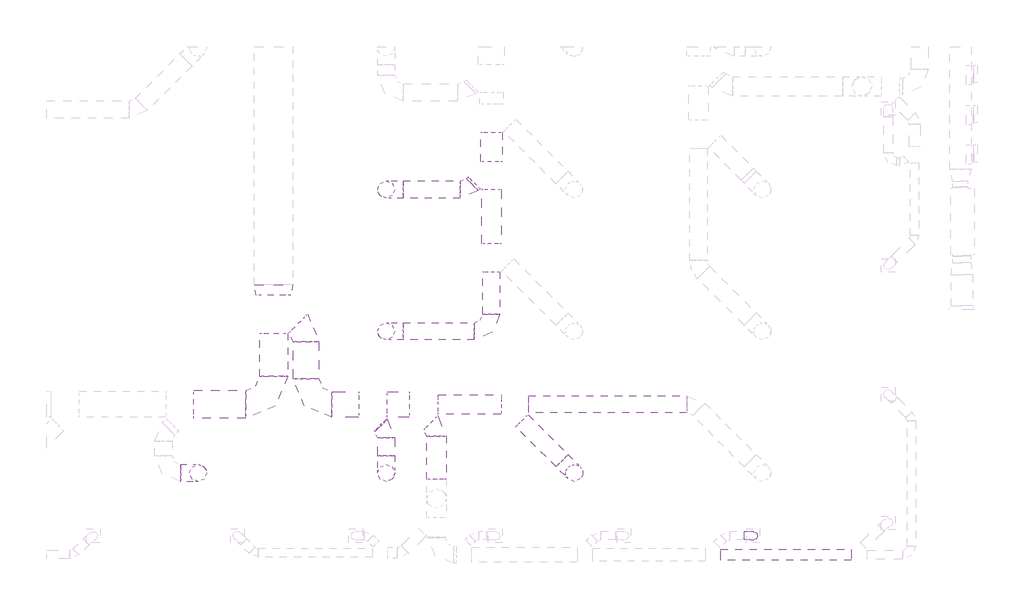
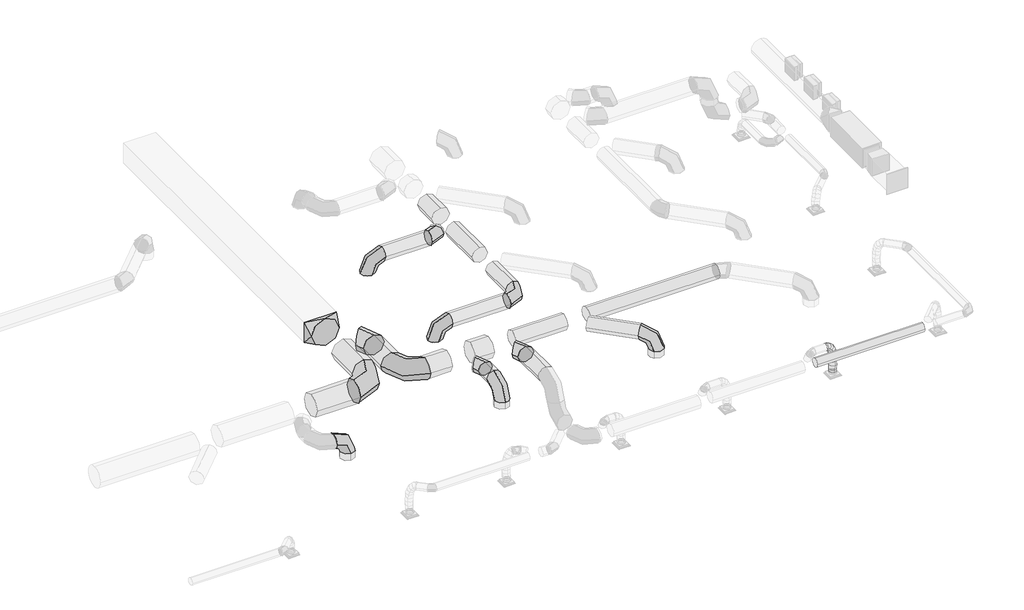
# One storey, part 6 of 33: 25 duct segments, 13 duct fittings.
"""IFC4 building model written with IfcOpenShell, lengths in millimetres."""

from ifc_helpers import new_model, si_unit, point, frame, frame_2d, origin, place, context, project, spatial, circle_curve, ellipse_curve, trimmed, segment, composite_curve, outline, extrude, transform, mapped, element, save
from ifc_brep_helpers import plane_surface, cylinder_surface, advanced_brep
from components import rectangular_to_round_transition_angle_45_degree_0f345050, round_elbow_1_d_a92ac68b, round_elbow_1_d_30de4f45, round_elbow_1_d_8aca8b6e, round_elbow_1_d_29f30982, round_elbow_1_d_755a5f0f, round_elbow_1_d_6b09a4cd

model = new_model("IFC4")

# Units and contexts
model_context = context("Model", 3, world=origin())
ifc_project = project(units=[si_unit("LENGTHUNIT", "METRE", prefix="MILLI")], contexts=[model_context])

# Site, building, storey
site = spatial("IfcSite", under=ifc_project)
building = spatial("IfcBuilding", under=site)
storey = spatial("IfcBuildingStorey", under=building, Name="T.O. SLAB - 1ST", Elevation=-25.4)

# Duct fittings
placement = place(None, origin())
rectangular_to_round_transition_angle_45_degree_shape = rectangular_to_round_transition_angle_45_degree_0f345050(model_context)
element("IfcDuctFitting", 1, ObjectType="Rectangular to Round Transition - Angle : 45 Degree", at=placement, inside=storey, context=model_context, shape_type="MappedRepresentation", body=[
    mapped(rectangular_to_round_transition_angle_45_degree_shape, transform((18409.4301182, 12453.8724624, 4826.0), x_axis=(0.0, -1.0, 0.0), y_axis=(1.0, 0.0, 0.0), z_axis=(0.0, 0.0, 1.0))),
])
round_elbow_1_d_shape = round_elbow_1_d_a92ac68b(model_context)
element("IfcDuctFitting", 2, ObjectType="Round Elbow : 1 D", at=placement, inside=storey, context=model_context, shape_type="MappedRepresentation", body=[
    mapped(round_elbow_1_d_shape, transform((18409.4301182, 9627.2657862, 4826.0), x_axis=(1.0, 0.0, 0.0), y_axis=(0.0, 1.0, 0.0), z_axis=(0.0, 0.0, 1.0))),
])
round_elbow_1_d_2_shape = round_elbow_1_d_30de4f45(model_context)
element("IfcDuctFitting", 3, ObjectType="Round Elbow : 1 D", at=placement, inside=storey, context=model_context, shape_type="MappedRepresentation", body=[
    mapped(round_elbow_1_d_2_shape, transform((21071.7804612, 9005.9434892, 4826.0), x_axis=(0.0, 1.0, 0.0), y_axis=(-1.0, 0.0, 0.0), z_axis=(0.0, 0.0, 1.0))),
])
element("IfcDuctFitting", 4, ObjectType="Round Elbow : 1 D", at=placement, inside=storey, context=model_context, shape_type="MappedRepresentation", body=[
    mapped(round_elbow_1_d_2_shape, transform((22990.1561416, 14709.1197891, 4635.5), x_axis=(1.0, 0.0, 0.0), y_axis=(0.0, 1.0, 0.0), z_axis=(0.0, 0.0, 1.0))),
])
round_elbow_1_d_3_shape = round_elbow_1_d_8aca8b6e(model_context)
element("IfcDuctFitting", 5, ObjectType="Round Elbow : 1 D", at=placement, inside=storey, context=model_context, shape_type="MappedRepresentation", body=[
    mapped(round_elbow_1_d_3_shape, transform((16621.7004612, 8003.2910045, 4826.0), x_axis=(0.0, 0.0, 1.0), y_axis=(-1.0, 0.0, 0.0), z_axis=(0.0, -1.0, 0.0))),
])
element("IfcDuctFitting", 6, ObjectType="Round Elbow : 1 D", at=placement, inside=storey, context=model_context, shape_type="MappedRepresentation", body=[
    mapped(round_elbow_1_d_3_shape, transform((21071.7804612, 8003.2910045, 4826.0), x_axis=(0.0, 0.0, 1.0), y_axis=(0.0, 1.0, 0.0), z_axis=(-1.0, 0.0, 0.0))),
])
element("IfcDuctFitting", 7, ObjectType="Round Elbow : 1 D", at=placement, inside=storey, context=model_context, shape_type="MappedRepresentation", body=[
    mapped(round_elbow_1_d_3_shape, transform((25521.7392057, 8003.9521435, 4826.0), x_axis=(0.0, 0.0, 1.0), y_axis=(-0.7071067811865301, 0.7071067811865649, 0.0), z_axis=(-0.7071067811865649, -0.7071067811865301, 0.0))),
])
element("IfcDuctFitting", 8, ObjectType="Round Elbow : 1 D", at=placement, inside=storey, context=model_context, shape_type="MappedRepresentation", body=[
    mapped(round_elbow_1_d_3_shape, transform((21071.7804612, 14709.1197891, 4635.5), x_axis=(0.0, 0.0, 1.0), y_axis=(1.0, 0.0, 0.0), z_axis=(0.0, 1.0, 0.0))),
])
element("IfcDuctFitting", 9, ObjectType="Round Elbow : 1 D", at=placement, inside=storey, context=model_context, shape_type="MappedRepresentation", body=[
    mapped(round_elbow_1_d_3_shape, transform((23561.0182719, 11356.0910045, 4635.5), x_axis=(1.0, 0.0, 0.0), y_axis=(0.0, 1.0, 0.0), z_axis=(0.0, 0.0, 1.0))),
])
element("IfcDuctFitting", 10, ObjectType="Round Elbow : 1 D", at=placement, inside=storey, context=model_context, shape_type="MappedRepresentation", body=[
    mapped(round_elbow_1_d_3_shape, transform((21071.7804612, 11356.0910045, 4635.5), x_axis=(0.0, 0.0, 1.0), y_axis=(1.0, 0.0, 0.0), z_axis=(0.0, 1.0, 0.0))),
])
round_elbow_1_d_4_shape = round_elbow_1_d_29f30982(model_context)
element("IfcDuctFitting", 11, ObjectType="Round Elbow : 1 D", at=placement, inside=storey, context=model_context, shape_type="MappedRepresentation", body=[
    mapped(round_elbow_1_d_4_shape, transform((19173.9445707, 9625.3291958, 4826.0), x_axis=(0.0, -1.0, 0.0), y_axis=(1.0, 0.0, 0.0), z_axis=(0.0, 0.0, 1.0))),
])
round_elbow_1_d_5_shape = round_elbow_1_d_755a5f0f(model_context)
element("IfcDuctFitting", 12, ObjectType="Round Elbow : 1 D", at=placement, inside=storey, context=model_context, shape_type="MappedRepresentation", body=[
    mapped(round_elbow_1_d_5_shape, transform((19173.9445707, 11364.3020432, 4826.0), x_axis=(0.0, 1.0, 0.0), y_axis=(-1.0, 0.0, 0.0), z_axis=(0.0, 0.0, 1.0))),
])
round_elbow_1_d_6_shape = round_elbow_1_d_6b09a4cd(model_context)
element("IfcDuctFitting", 13, ObjectType="Round Elbow : 1 D", at=placement, inside=storey, context=model_context, shape_type="MappedRepresentation", body=[
    mapped(round_elbow_1_d_6_shape, transform((22263.1, 9059.5877561, 4826.0), x_axis=(0.0, 1.0, 0.0), y_axis=(-1.0, 0.0, 0.0), z_axis=(0.0, 0.0, 1.0))),
])

# Duct segments
element("IfcDuctSegment", 14, ObjectType="Flex - Round", at=placement, inside=storey, context=model_context, shape_type="AdvancedBrep", body=[
    advanced_brep(
    [(29546.5216644, 6620.4480728, 3911.6), (29546.5216644, 6518.8480728, 3810.0), (29546.5216644, 6417.2480728, 3911.6), (29546.5216644, 6518.8480728, 4013.2), (29569.427366, 6620.4480728, 3911.6), (29553.2806618, 6518.8480728, 3810.0), (29569.3581563, 6417.2480728, 3911.6), (29585.5048605, 6518.8480728, 4013.2), (29749.9225627, 6619.3062058, 3117.8057787), (29851.3001089, 6517.5044406, 3115.7775468), (29749.5203354, 6416.1066232, 3117.8942213), (29648.1427892, 6517.9083883, 3119.9224532), (29625.5303367, 6620.4088697, 3893.3469271), (29573.8418357, 6518.8337053, 3803.3104326), (29625.3133821, 6417.2089729, 3893.3949959), (29677.0018831, 6518.7841373, 3983.4314904), (29682.4790961, 6620.3038337, 3842.8217712), (29600.2429957, 6518.7850111, 3779.887223), (29682.1429617, 6417.1041567, 3842.9755767), (29764.3790621, 6518.6229793, 3905.9101249), (29720.7804733, 6620.1518286, 3766.3796113), (29624.5253978, 6518.6886426, 3731.424233), (29720.3953713, 6416.952346, 3766.6311468), (29816.6504468, 6518.4155321, 3801.5865252), (29743.8495322, 6619.9716872, 3670.3638593), (29643.2795955, 6518.542195, 3653.3673691), (29743.4530457, 6416.7722935, 3670.6627783), (29844.0229824, 6518.2017857, 3687.6592685), (29755.0986055, 6619.7821857, 3561.0905739), (29653.4270925, 6518.3712506, 3554.7947746), (29754.701151, 6416.5828083, 3561.398896), (29856.372664, 6517.9937434, 3567.6946952), (29757.9309239, 6619.6021041, 3444.8776762), (29656.109489, 6518.2007012, 3444.7333238), (29757.5339552, 6416.4026958, 3445.1660624), (29859.3553901, 6517.8040988, 3445.3104147), (29755.7466728, 6619.4502286, 3328.0477099), (29653.9803932, 6518.0526608, 3330.8534731), (29755.3487716, 6416.2507555, 3328.2862174), (29857.1150512, 6517.6483234, 3325.4804542), (29751.9449923, 6619.3453458, 3216.9287818), (29650.1801142, 6517.9478166, 3219.7755093), (29751.5439588, 6416.1457862, 3217.0757381), (29853.3088369, 6517.5433154, 3214.2290106)],
    [
        (0, 1, circle_curve(frame((29546.5216644, 6518.8480728, 3911.6), z_axis=(-1.0, 0.0, 0.0), x_axis=(0.0, 1.0, 0.0)), 101.6)),
        (1, 2, circle_curve(frame((29546.5216644, 6518.8480728, 3911.6), z_axis=(-1.0, 0.0, 0.0), x_axis=(0.0, 1.0, 0.0)), 101.6)),
        (2, 3, circle_curve(frame((29546.5216644, 6518.8480728, 3911.6), z_axis=(-1.0, 0.0, 0.0), x_axis=(0.0, 1.0, 0.0)), 101.6)),
        (3, 0, circle_curve(frame((29546.5216644, 6518.8480728, 3911.6), z_axis=(-1.0, 0.0, 0.0), x_axis=(0.0, 1.0, 0.0)), 101.6)),
        (0, 4),
        (4, 5, ellipse_curve(frame((29569.3927612, 6518.8480728, 3911.6), z_axis=(-0.9876578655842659, 0.0003363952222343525, 0.15662639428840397), x_axis=(-0.15662675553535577, -0.0021212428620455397, -0.9876555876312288)), 102.8696308, 101.6)),
        (5, 1),
        (5, 6, ellipse_curve(frame((29569.3927612, 6518.8480728, 3911.6), z_axis=(-0.9876578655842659, 0.0003363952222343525, 0.15662639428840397), x_axis=(-0.15662675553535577, -0.0021212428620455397, -0.9876555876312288)), 102.8696308, 101.6)),
        (6, 2),
        (6, 7, ellipse_curve(frame((29569.3927612, 6518.8480728, 3911.6), z_axis=(-0.9876578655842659, 0.0003363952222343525, 0.15662639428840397), x_axis=(-0.15662675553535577, -0.0021212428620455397, -0.9876555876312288)), 102.8696308, 101.6)),
        (7, 3),
        (7, 4, ellipse_curve(frame((29569.3927612, 6518.8480728, 3911.6), z_axis=(-0.9876578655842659, 0.0003363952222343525, 0.15662639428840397), x_axis=(-0.15662675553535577, -0.0021212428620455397, -0.9876555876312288)), 102.8696308, 101.6)),
        (8, 9, circle_curve(frame((29749.721449, 6517.7064145, 3117.85), z_axis=(-0.02039898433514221, -0.0003947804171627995, -0.9997918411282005), x_axis=(0.0019794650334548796, 0.999997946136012, -0.00043524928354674)), 101.6)),
        (9, 10, circle_curve(frame((29749.721449, 6517.7064145, 3117.85), z_axis=(-0.02039898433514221, -0.0003947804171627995, -0.9997918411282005), x_axis=(0.0019794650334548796, 0.999997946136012, -0.00043524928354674)), 101.6)),
        (10, 11, circle_curve(frame((29749.721449, 6517.7064145, 3117.85), z_axis=(-0.02039898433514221, -0.0003947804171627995, -0.9997918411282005), x_axis=(0.0019794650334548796, 0.999997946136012, -0.00043524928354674)), 101.6)),
        (11, 8, circle_curve(frame((29749.721449, 6517.7064145, 3117.85), z_axis=(-0.02039898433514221, -0.0003947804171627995, -0.9997918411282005), x_axis=(0.0019794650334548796, 0.999997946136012, -0.00043524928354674)), 101.6)),
        (4, 12),
        (12, 13, ellipse_curve(frame((29625.4218594, 6518.8089213, 3893.3709615), z_axis=(-0.867757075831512, 0.0010440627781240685, 0.4969874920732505), x_axis=(-0.4969885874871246, -0.0017517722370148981, -0.8677553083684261)), 103.7853563, 101.6)),
        (13, 5),
        (13, 14, ellipse_curve(frame((29625.4218594, 6518.8089213, 3893.3709615), z_axis=(-0.867757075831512, 0.0010440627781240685, 0.4969874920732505), x_axis=(-0.4969885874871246, -0.0017517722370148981, -0.8677553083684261)), 103.7853563, 101.6)),
        (14, 6),
        (14, 15, ellipse_curve(frame((29625.4218594, 6518.8089213, 3893.3709615), z_axis=(-0.867757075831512, 0.0010440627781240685, 0.4969874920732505), x_axis=(-0.4969885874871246, -0.0017517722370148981, -0.8677553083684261)), 103.7853563, 101.6)),
        (15, 7),
        (15, 12, ellipse_curve(frame((29625.4218594, 6518.8089213, 3893.3709615), z_axis=(-0.867757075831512, 0.0010440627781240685, 0.4969874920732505), x_axis=(-0.4969885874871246, -0.0017517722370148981, -0.8677553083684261)), 103.7853563, 101.6)),
        (12, 16),
        (16, 17, ellipse_curve(frame((29682.3110289, 6518.7039952, 3842.8986739), z_axis=(-0.6089934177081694, 0.0016077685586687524, 0.7931736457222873), x_axis=(-0.7931752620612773, -0.0010524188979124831, -0.6089925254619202)), 103.4679319, 101.6)),
        (17, 13),
        (17, 18, ellipse_curve(frame((29682.3110289, 6518.7039952, 3842.8986739), z_axis=(-0.6089934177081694, 0.0016077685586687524, 0.7931736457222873), x_axis=(-0.7931752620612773, -0.0010524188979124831, -0.6089925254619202)), 103.4679319, 101.6)),
        (18, 14),
        (18, 19, ellipse_curve(frame((29682.3110289, 6518.7039952, 3842.8986739), z_axis=(-0.6089934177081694, 0.0016077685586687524, 0.7931736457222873), x_axis=(-0.7931752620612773, -0.0010524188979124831, -0.6089925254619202)), 103.4679319, 101.6)),
        (19, 15),
        (19, 16, ellipse_curve(frame((29682.3110289, 6518.7039952, 3842.8986739), z_axis=(-0.6089934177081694, 0.0016077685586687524, 0.7931736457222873), x_axis=(-0.7931752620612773, -0.0010524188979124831, -0.6089925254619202)), 103.4679319, 101.6)),
        (16, 20),
        (20, 21, ellipse_curve(frame((29720.5879223, 6518.5520873, 3766.5053791), z_axis=(-0.34302946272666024, 0.0018128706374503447, 0.9393228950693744), x_axis=(-0.9393245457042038, -0.0002034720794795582, -0.34302967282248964)), 102.2678561, 101.6)),
        (21, 17),
        (21, 22, ellipse_curve(frame((29720.5879223, 6518.5520873, 3766.5053791), z_axis=(-0.34302946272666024, 0.0018128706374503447, 0.9393228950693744), x_axis=(-0.9393245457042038, -0.0002034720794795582, -0.34302967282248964)), 102.2678561, 101.6)),
        (22, 18),
        (22, 23, ellipse_curve(frame((29720.5879223, 6518.5520873, 3766.5053791), z_axis=(-0.34302946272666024, 0.0018128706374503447, 0.9393228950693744), x_axis=(-0.9393245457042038, -0.0002034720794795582, -0.34302967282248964)), 102.2678561, 101.6)),
        (23, 19),
        (23, 20, ellipse_curve(frame((29720.5879223, 6518.5520873, 3766.5053791), z_axis=(-0.34302946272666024, 0.0018128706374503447, 0.9393228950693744), x_axis=(-0.9393245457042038, -0.0002034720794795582, -0.34302967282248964)), 102.2678561, 101.6)),
        (20, 24),
        (24, 25, ellipse_curve(frame((29743.651289, 6518.3719903, 3670.5133188), z_axis=(-0.16838219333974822, 0.0017786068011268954, 0.9857201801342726), x_axis=(-0.985721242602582, 0.0007450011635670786, -0.16838371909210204)), 101.8257799, 101.6)),
        (25, 21),
        (25, 26, ellipse_curve(frame((29743.651289, 6518.3719903, 3670.5133188), z_axis=(-0.16838219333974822, 0.0017786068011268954, 0.9857201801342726), x_axis=(-0.985721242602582, 0.0007450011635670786, -0.16838371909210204)), 101.8257799, 101.6)),
        (26, 22),
        (26, 27, ellipse_curve(frame((29743.651289, 6518.3719903, 3670.5133188), z_axis=(-0.16838219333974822, 0.0017786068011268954, 0.9857201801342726), x_axis=(-0.985721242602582, 0.0007450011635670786, -0.16838371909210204)), 101.8257799, 101.6)),
        (27, 23),
        (27, 24, ellipse_curve(frame((29743.651289, 6518.3719903, 3670.5133188), z_axis=(-0.16838219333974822, 0.0017786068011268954, 0.9857201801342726), x_axis=(-0.985721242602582, 0.0007450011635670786, -0.16838371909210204)), 101.8257799, 101.6)),
        (24, 28),
        (28, 29, ellipse_curve(frame((29754.8998782, 6518.182497, 3561.2447349), z_axis=(-0.0634323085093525, 0.0016383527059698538, 0.9979847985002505), x_axis=(-0.9979833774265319, 0.002250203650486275, -0.06343591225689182)), 101.6777452, 101.6)),
        (29, 25),
        (29, 30, ellipse_curve(frame((29754.8998782, 6518.182497, 3561.2447349), z_axis=(-0.0634323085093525, 0.0016383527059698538, 0.9979847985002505), x_axis=(-0.9979833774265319, 0.002250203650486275, -0.06343591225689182)), 101.6777452, 101.6)),
        (30, 26),
        (30, 31, ellipse_curve(frame((29754.8998782, 6518.182497, 3561.2447349), z_axis=(-0.0634323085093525, 0.0016383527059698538, 0.9979847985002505), x_axis=(-0.9979833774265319, 0.002250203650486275, -0.06343591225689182)), 101.6777452, 101.6)),
        (31, 27),
        (31, 28, ellipse_curve(frame((29754.8998782, 6518.182497, 3561.2447349), z_axis=(-0.0634323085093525, 0.0016383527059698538, 0.9979847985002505), x_axis=(-0.9979833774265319, 0.002250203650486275, -0.06343591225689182)), 101.6777452, 101.6)),
        (28, 32),
        (32, 33, ellipse_curve(frame((29757.7324395, 6518.0024, 3445.0218693), z_axis=(-0.0028365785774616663, 0.0014247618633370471, 0.9999949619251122), x_axis=(-0.9999791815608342, 0.005791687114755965, -0.002844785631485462)), 101.623554, 101.6)),
        (33, 29),
        (33, 34, ellipse_curve(frame((29757.7324395, 6518.0024, 3445.0218693), z_axis=(-0.0028365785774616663, 0.0014247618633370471, 0.9999949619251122), x_axis=(-0.9999791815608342, 0.005791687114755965, -0.002844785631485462)), 101.623554, 101.6)),
        (34, 30),
        (34, 35, ellipse_curve(frame((29757.7324395, 6518.0024, 3445.0218693), z_axis=(-0.0028365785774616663, 0.0014247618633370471, 0.9999949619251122), x_axis=(-0.9999791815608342, 0.005791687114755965, -0.002844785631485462)), 101.623554, 101.6)),
        (35, 31),
        (35, 32, ellipse_curve(frame((29757.7324395, 6518.0024, 3445.0218693), z_axis=(-0.0028365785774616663, 0.0014247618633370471, 0.9999949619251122), x_axis=(-0.9999791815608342, 0.005791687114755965, -0.002844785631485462)), 101.623554, 101.6)),
        (32, 36),
        (36, 37, ellipse_curve(frame((29755.5477222, 6517.8504921, 3328.1669637), z_axis=(0.026443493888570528, 0.0011215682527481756, 0.9996496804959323), x_axis=(-0.9993869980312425, 0.02298042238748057, 0.0264107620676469)), 101.6030551, 101.6)),
        (37, 33),
        (37, 38, ellipse_curve(frame((29755.5477222, 6517.8504921, 3328.1669637), z_axis=(0.026443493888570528, 0.0011215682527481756, 0.9996496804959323), x_axis=(-0.9993869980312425, 0.02298042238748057, 0.0264107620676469)), 101.6030551, 101.6)),
        (38, 34),
        (38, 39, ellipse_curve(frame((29755.5477222, 6517.8504921, 3328.1669637), z_axis=(0.026443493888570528, 0.0011215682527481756, 0.9996496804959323), x_axis=(-0.9993869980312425, 0.02298042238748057, 0.0264107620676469)), 101.6030551, 101.6)),
        (39, 35),
        (39, 36, ellipse_curve(frame((29755.5477222, 6517.8504921, 3328.1669637), z_axis=(0.026443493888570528, 0.0011215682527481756, 0.9996496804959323), x_axis=(-0.9993869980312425, 0.02298042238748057, 0.0264107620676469)), 101.6030551, 101.6)),
        (36, 40),
        (40, 41, ellipse_curve(frame((29751.7444756, 6517.745566, 3217.00226), z_axis=(0.027296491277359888, 0.0006690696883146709, 0.9996271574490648), x_axis=(0.9988377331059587, 0.03972165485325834, -0.027301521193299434)), 101.6024221, 101.6)),
        (41, 37),
        (41, 42, ellipse_curve(frame((29751.7444756, 6517.745566, 3217.00226), z_axis=(0.027296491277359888, 0.0006690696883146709, 0.9996271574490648), x_axis=(0.9988377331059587, 0.03972165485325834, -0.027301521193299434)), 101.6024221, 101.6)),
        (42, 38),
        (42, 43, ellipse_curve(frame((29751.7444756, 6517.745566, 3217.00226), z_axis=(0.027296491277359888, 0.0006690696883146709, 0.9996271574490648), x_axis=(0.9988377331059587, 0.03972165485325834, -0.027301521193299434)), 101.6024221, 101.6)),
        (43, 39),
        (43, 40, ellipse_curve(frame((29751.7444756, 6517.745566, 3217.00226), z_axis=(0.027296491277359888, 0.0006690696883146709, 0.9996271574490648), x_axis=(0.9988377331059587, 0.03972165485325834, -0.027301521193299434)), 101.6024221, 101.6)),
        (40, 8),
        (11, 41),
        (10, 42),
        (9, 43),
    ],
    [
        plane_surface(frame((29546.5216644, 6518.8480728, 3810.0), z_axis=(-1.0, 0.0, 0.0), x_axis=(0.0, 1.0, 0.0))),
        cylinder_surface(frame((29546.5216644, 6518.8480728, 3911.6), z_axis=(-1.0, 0.0, 0.0), x_axis=(0.0, 1.0, 0.0)), 101.6),
        plane_surface(frame((29749.721449, 6619.3064066, 3117.809882), z_axis=(-0.020398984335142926, -0.0003947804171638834, -0.9997918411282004), x_axis=(0.9997919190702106, -8.054795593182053e-06, -0.020398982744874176))),
        cylinder_surface(frame((29569.3927612, 6518.8480728, 3911.6), z_axis=(-0.9509361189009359, 0.0006644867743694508, 0.3093865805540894), x_axis=(0.0006644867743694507, 0.9999997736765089, -0.00010537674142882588)), 101.6),
        cylinder_surface(frame((29625.4218594, 6518.8089213, 3893.3709615), z_axis=(-0.7480341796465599, 0.0013796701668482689, 0.663658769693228), x_axis=(0.0013848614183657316, 0.9999989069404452, -0.000517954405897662)), 101.6),
        cylinder_surface(frame((29682.3110289, 6518.7039952, 3842.8986739), z_axis=(-0.44796404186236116, 0.001777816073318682, 0.89404980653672), x_axis=(0.001815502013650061, 0.9999977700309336, -0.0010788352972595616)), 101.6),
        cylinder_surface(frame((29720.5879223, 6518.5520873, 3766.5053791), z_axis=(-0.23361460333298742, 0.0018242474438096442, 0.9723275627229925), x_axis=(0.001936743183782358, 0.999997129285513, -0.0014108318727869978)), 101.6),
        cylinder_surface(frame((29743.651289, 6518.3719903, 3670.5133188), z_axis=(-0.10240307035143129, 0.001725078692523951, 0.9947414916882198), x_axis=(0.001957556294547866, 0.9999969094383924, -0.0015326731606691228)), 101.6),
        cylinder_surface(frame((29754.8998782, 6518.182497, 3561.2447349), z_axis=(-0.024364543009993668, 0.0015491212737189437, 0.9997019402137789), x_axis=(0.0019556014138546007, 0.9999969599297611, -0.0015019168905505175)), 101.6),
        cylinder_surface(frame((29757.7324395, 6518.0024, 3445.0218693), z_axis=(0.018692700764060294, 0.0012997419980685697, 0.9998244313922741), x_axis=(0.0019551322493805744, 0.9999971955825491, -0.0013365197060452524)), 101.6),
        cylinder_surface(frame((29755.5477222, 6517.8504921, 3328.1669637), z_axis=(0.034192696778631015, 0.0009433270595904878, 0.999414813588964), x_axis=(0.001963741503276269, 0.9999975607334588, -0.0010110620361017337)), 101.6),
        cylinder_surface(frame((29751.7444756, 6517.745566, 3217.00226), z_axis=(0.02039898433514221, 0.0003947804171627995, 0.9997918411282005), x_axis=(0.0019794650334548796, 0.999997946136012, -0.00043524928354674)), 101.6),
    ],
    [
        (0, [[1, 2, 3, 4]]),
        (1, [[-1, 5, 6, 7]]),
        (1, [[-2, -7, 8, 9]]),
        (1, [[-3, -9, 10, 11]]),
        (1, [[-4, -11, 12, -5]]),
        (2, [[13, 14, 15, 16]]),
        (3, [[-6, 17, 18, 19]]),
        (3, [[-8, -19, 20, 21]]),
        (3, [[-10, -21, 22, 23]]),
        (3, [[-12, -23, 24, -17]]),
        (4, [[-18, 25, 26, 27]]),
        (4, [[-20, -27, 28, 29]]),
        (4, [[-22, -29, 30, 31]]),
        (4, [[-24, -31, 32, -25]]),
        (5, [[-26, 33, 34, 35]]),
        (5, [[-28, -35, 36, 37]]),
        (5, [[-30, -37, 38, 39]]),
        (5, [[-32, -39, 40, -33]]),
        (6, [[-34, 41, 42, 43]]),
        (6, [[-36, -43, 44, 45]]),
        (6, [[-38, -45, 46, 47]]),
        (6, [[-40, -47, 48, -41]]),
        (7, [[-42, 49, 50, 51]]),
        (7, [[-44, -51, 52, 53]]),
        (7, [[-46, -53, 54, 55]]),
        (7, [[-48, -55, 56, -49]]),
        (8, [[-50, 57, 58, 59]]),
        (8, [[-52, -59, 60, 61]]),
        (8, [[-54, -61, 62, 63]]),
        (8, [[-56, -63, 64, -57]]),
        (9, [[-58, 65, 66, 67]]),
        (9, [[-60, -67, 68, 69]]),
        (9, [[-62, -69, 70, 71]]),
        (9, [[-64, -71, 72, -65]]),
        (10, [[-66, 73, 74, 75]]),
        (10, [[-68, -75, 76, 77]]),
        (10, [[-70, -77, 78, 79]]),
        (10, [[-72, -79, 80, -73]]),
        (11, [[-74, 81, -16, 82]]),
        (11, [[-76, -82, -15, 83]]),
        (11, [[-78, -83, -14, 84]]),
        (11, [[-80, -84, -13, -81]]),
    ],
),
])
element("IfcDuctSegment", 15, ObjectType="Taps", at=placement, inside=storey, context=model_context, shape_type="SweptSolid", body=[
    extrude(outline(composite_curve([segment(trimmed(circle_curve(frame_2d((4826.0, 18409.4301182)), 330.2), [point((4826.0, 18079.2301182))], [point((4495.8, 18409.4301182))], False, "CARTESIAN"), True, "CONTINUOUS"), segment(trimmed(circle_curve(frame_2d((4826.0, 18409.4301182)), 330.2), [point((4495.8, 18409.4301182))], [point((4826.0, 18739.6301182))], False, "CARTESIAN"), True, "CONTINUOUS"), segment(trimmed(circle_curve(frame_2d((4826.0, 18409.4301182)), 330.2), [point((4826.0, 18739.6301182))], [point((5156.2, 18409.4301182))], False, "CARTESIAN"), True, "CONTINUOUS"), segment(trimmed(circle_curve(frame_2d((4826.0, 18409.4301182)), 330.2), [point((5156.2, 18409.4301182))], [point((4826.0, 18079.2301182))], False, "CARTESIAN"), True, "CONTINUOUS")], self_intersect=False)), frame((0.0, 10287.6657862, 0.0), z_axis=(0.0, 1.0, 0.0), x_axis=(0.0, 0.0, 1.0)), (0.0, 0.0, 1.0), 1024.7788408),
])
element("IfcDuctSegment", 16, ObjectType="Taps", at=placement, inside=storey, context=model_context, shape_type="SweptSolid", body=[
    extrude(outline(composite_curve([segment(trimmed(circle_curve(frame_2d((4826.0, 19173.9445707)), 304.8), [point((4826.0, 18869.1445707))], [point((4521.2, 19173.9445707))], False, "CARTESIAN"), True, "CONTINUOUS"), segment(trimmed(circle_curve(frame_2d((4826.0, 19173.9445707)), 304.8), [point((4521.2, 19173.9445707))], [point((4826.0, 19478.7445707))], False, "CARTESIAN"), True, "CONTINUOUS"), segment(trimmed(circle_curve(frame_2d((4826.0, 19173.9445707)), 304.8), [point((4826.0, 19478.7445707))], [point((5130.8, 19173.9445707))], False, "CARTESIAN"), True, "CONTINUOUS"), segment(trimmed(circle_curve(frame_2d((4826.0, 19173.9445707)), 304.8), [point((5130.8, 19173.9445707))], [point((4826.0, 18869.1445707))], False, "CARTESIAN"), True, "CONTINUOUS")], self_intersect=False)), frame((0.0, 10234.9291958, 0.0), z_axis=(0.0, 1.0, 0.0), x_axis=(0.0, 0.0, 1.0)), (0.0, 0.0, 1.0), 876.8682598),
])
element("IfcDuctSegment", 17, ObjectType="Taps", at=placement, inside=storey, context=model_context, shape_type="SweptSolid", body=[
    extrude(outline(composite_curve([segment(trimmed(circle_curve(frame_2d((9625.3291958, 4826.0)), 203.2), [point((9422.1291958, 4826.0))], [point((9625.3291958, 5029.2))], False, "CARTESIAN"), True, "CONTINUOUS"), segment(trimmed(circle_curve(frame_2d((9625.3291958, 4826.0)), 203.2), [point((9625.3291958, 5029.2))], [point((9828.5291958, 4826.0))], False, "CARTESIAN"), True, "CONTINUOUS"), segment(trimmed(circle_curve(frame_2d((9625.3291958, 4826.0)), 203.2), [point((9828.5291958, 4826.0))], [point((9625.3291958, 4622.8))], False, "CARTESIAN"), True, "CONTINUOUS"), segment(trimmed(circle_curve(frame_2d((9625.3291958, 4826.0)), 203.2), [point((9625.3291958, 4622.8))], [point((9422.1291958, 4826.0))], False, "CARTESIAN"), True, "CONTINUOUS")], self_intersect=False)), frame((24443.7006733, 0.0, 0.0), z_axis=(1.0, 0.0, 0.0), x_axis=(0.0, 1.0, 0.0)), (0.0, 0.0, 1.0), 3738.6475993),
])
element("IfcDuctSegment", 18, ObjectType="Taps", at=placement, inside=storey, context=model_context, shape_type="SweptSolid", body=[
    extrude(outline(composite_curve([segment(trimmed(circle_curve(frame_2d((9627.2657862, 4826.0)), 330.2), [point((9957.4657862, 4826.0))], [point((9627.2657862, 4495.8))], False, "CARTESIAN"), True, "CONTINUOUS"), segment(trimmed(circle_curve(frame_2d((9627.2657862, 4826.0)), 330.2), [point((9627.2657862, 4495.8))], [point((9297.0657862, 4826.0))], False, "CARTESIAN"), True, "CONTINUOUS"), segment(trimmed(circle_curve(frame_2d((9627.2657862, 4826.0)), 330.2), [point((9297.0657862, 4826.0))], [point((9627.2657862, 5156.2))], False, "CARTESIAN"), True, "CONTINUOUS"), segment(trimmed(circle_curve(frame_2d((9627.2657862, 4826.0)), 330.2), [point((9627.2657862, 5156.2))], [point((9957.4657862, 4826.0))], False, "CARTESIAN"), True, "CONTINUOUS")], self_intersect=False)), frame((16515.2737211, 0.0, 0.0), z_axis=(1.0, 0.0, 0.0), x_axis=(0.0, 1.0, 0.0)), (0.0, 0.0, 1.0), 1233.756397),
])
element("IfcDuctSegment", 19, ObjectType="Taps", at=placement, inside=storey, context=model_context, shape_type="SweptSolid", body=[
    extrude(outline(composite_curve([segment(trimmed(circle_curve(frame_2d((8003.2910045, 4826.0)), 203.2), [point((7800.0910045, 4826.0))], [point((8003.2910045, 5029.2))], False, "CARTESIAN"), True, "CONTINUOUS"), segment(trimmed(circle_curve(frame_2d((8003.2910045, 4826.0)), 203.2), [point((8003.2910045, 5029.2))], [point((8206.4910045, 4826.0))], False, "CARTESIAN"), True, "CONTINUOUS"), segment(trimmed(circle_curve(frame_2d((8003.2910045, 4826.0)), 203.2), [point((8206.4910045, 4826.0))], [point((8003.2910045, 4622.8))], False, "CARTESIAN"), True, "CONTINUOUS"), segment(trimmed(circle_curve(frame_2d((8003.2910045, 4826.0)), 203.2), [point((8003.2910045, 4622.8))], [point((7800.0910045, 4826.0))], False, "CARTESIAN"), True, "CONTINUOUS")], self_intersect=False)), frame((16210.0526059, 0.0, 0.0), z_axis=(1.0, 0.0, 0.0), x_axis=(0.0, 1.0, 0.0)), (0.0, 0.0, 1.0), 5.2478554),
])
element("IfcDuctSegment", 20, ObjectType="Taps", at=placement, inside=storey, context=model_context, shape_type="SweptSolid", body=[
    extrude(outline(composite_curve([segment(trimmed(circle_curve(frame_2d((16621.7004612, 8003.2910045)), 203.2), [point((16621.7004612, 8206.4910045))], [point((16824.9004612, 8003.2910045))], False, "CARTESIAN"), True, "CONTINUOUS"), segment(trimmed(circle_curve(frame_2d((16621.7004612, 8003.2910045)), 203.2), [point((16824.9004612, 8003.2910045))], [point((16621.7004612, 7800.0910045))], False, "CARTESIAN"), True, "CONTINUOUS"), segment(trimmed(circle_curve(frame_2d((16621.7004612, 8003.2910045)), 203.2), [point((16621.7004612, 7800.0910045))], [point((16418.5004612, 8003.2910045))], False, "CARTESIAN"), True, "CONTINUOUS"), segment(trimmed(circle_curve(frame_2d((16621.7004612, 8003.2910045)), 203.2), [point((16418.5004612, 8003.2910045))], [point((16621.7004612, 8206.4910045))], False, "CARTESIAN"), True, "CONTINUOUS")], self_intersect=False)), frame((0.0, 0.0, 4216.4), z_axis=(0.0, 0.0, 1.0), x_axis=(1.0, 0.0, 0.0)), (0.0, 0.0, 1.0), 203.2),
])
element("IfcDuctSegment", 21, ObjectType="Taps", at=placement, inside=storey, context=model_context, shape_type="SweptSolid", body=[
    extrude(outline(composite_curve([segment(trimmed(circle_curve(frame_2d((9625.3291958, 4826.0)), 304.8), [point((9320.5291958, 4826.0))], [point((9625.3291958, 5130.8))], False, "CARTESIAN"), True, "CONTINUOUS"), segment(trimmed(circle_curve(frame_2d((9625.3291958, 4826.0)), 304.8), [point((9625.3291958, 5130.8))], [point((9930.1291958, 4826.0))], False, "CARTESIAN"), True, "CONTINUOUS"), segment(trimmed(circle_curve(frame_2d((9625.3291958, 4826.0)), 304.8), [point((9930.1291958, 4826.0))], [point((9625.3291958, 4521.2))], False, "CARTESIAN"), True, "CONTINUOUS"), segment(trimmed(circle_curve(frame_2d((9625.3291958, 4826.0)), 304.8), [point((9625.3291958, 4521.2))], [point((9320.5291958, 4826.0))], False, "CARTESIAN"), True, "CONTINUOUS")], self_intersect=False)), frame((19783.5445707, 0.0, 0.0), z_axis=(1.0, 0.0, 0.0), x_axis=(0.0, 1.0, 0.0)), (0.0, 0.0, 1.0), 635.481988),
])
element("IfcDuctSegment", 22, ObjectType="Taps", at=placement, inside=storey, context=model_context, shape_type="SweptSolid", body=[
    extrude(outline(composite_curve([segment(trimmed(circle_curve(frame_2d((0.0, -203.2)), 203.2), [point((-203.1999999, -203.2))], [point((0.0, 0.0))], False, "CARTESIAN"), True, "CONTINUOUS"), segment(trimmed(circle_curve(frame_2d((0.0, -203.2)), 203.2), [point((0.0, 0.0))], [point((203.1999999, -203.2))], False, "CARTESIAN"), True, "CONTINUOUS"), segment(trimmed(circle_curve(frame_2d((0.0, -203.2)), 203.2), [point((203.1999999, -203.2))], [point((0.0, -406.4))], False, "CARTESIAN"), True, "CONTINUOUS"), segment(trimmed(circle_curve(frame_2d((0.0, -203.2)), 203.2), [point((0.0, -406.4))], [point((-203.1999999, -203.2))], False, "CARTESIAN"), True, "CONTINUOUS")], self_intersect=False)), frame((20952.7486571, 9124.9752933, 4622.8), z_axis=(-0.707106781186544, 0.7071067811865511, 0.0), x_axis=(0.7071067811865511, 0.707106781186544, 0.0)), (0.0, 0.0, 1.0), 22.5549811),
])
element("IfcDuctSegment", 23, ObjectType="Taps", at=placement, inside=storey, context=model_context, shape_type="SweptSolid", body=[
    extrude(outline(composite_curve([segment(trimmed(circle_curve(frame_2d((4826.0, 21071.7804612)), 203.2), [point((4826.0, 20868.5804612))], [point((4622.8, 21071.7804612))], False, "CARTESIAN"), True, "CONTINUOUS"), segment(trimmed(circle_curve(frame_2d((4826.0, 21071.7804612)), 203.2), [point((4622.8, 21071.7804612))], [point((4826.0, 21274.9804612))], False, "CARTESIAN"), True, "CONTINUOUS"), segment(trimmed(circle_curve(frame_2d((4826.0, 21071.7804612)), 203.2), [point((4826.0, 21274.9804612))], [point((5029.2, 21071.7804612))], False, "CARTESIAN"), True, "CONTINUOUS"), segment(trimmed(circle_curve(frame_2d((4826.0, 21071.7804612)), 203.2), [point((5029.2, 21071.7804612))], [point((4826.0, 20868.5804612))], False, "CARTESIAN"), True, "CONTINUOUS")], self_intersect=False)), frame((0.0, 8409.6910045, 0.0), z_axis=(0.0, 1.0, 0.0), x_axis=(0.0, 0.0, 1.0)), (0.0, 0.0, 1.0), 427.9160929),
])
element("IfcDuctSegment", 24, ObjectType="Taps", at=placement, inside=storey, context=model_context, shape_type="SweptSolid", body=[
    extrude(outline(composite_curve([segment(trimmed(circle_curve(frame_2d((21071.7804612, 8003.2910045)), 203.2), [point((21274.9804612, 8003.2910045))], [point((21071.7804612, 7800.0910045))], False, "CARTESIAN"), True, "CONTINUOUS"), segment(trimmed(circle_curve(frame_2d((21071.7804612, 8003.2910045)), 203.2), [point((21071.7804612, 7800.0910045))], [point((20868.5804612, 8003.2910045))], False, "CARTESIAN"), True, "CONTINUOUS"), segment(trimmed(circle_curve(frame_2d((21071.7804612, 8003.2910045)), 203.2), [point((20868.5804612, 8003.2910045))], [point((21071.7804612, 8206.4910045))], False, "CARTESIAN"), True, "CONTINUOUS"), segment(trimmed(circle_curve(frame_2d((21071.7804612, 8003.2910045)), 203.2), [point((21071.7804612, 8206.4910045))], [point((21274.9804612, 8003.2910045))], False, "CARTESIAN"), True, "CONTINUOUS")], self_intersect=False)), frame((0.0, 0.0, 4216.4), z_axis=(0.0, 0.0, 1.0), x_axis=(1.0, 0.0, 0.0)), (0.0, 0.0, 1.0), 203.2),
])
element("IfcDuctSegment", 25, ObjectType="Taps", at=placement, inside=storey, context=model_context, shape_type="SweptSolid", body=[
    extrude(outline(composite_curve([segment(trimmed(circle_curve(frame_2d((9625.3291958, 4826.0)), 304.8), [point((9320.5291958, 4826.0))], [point((9625.3291958, 5130.8))], False, "CARTESIAN"), True, "CONTINUOUS"), segment(trimmed(circle_curve(frame_2d((9625.3291958, 4826.0)), 304.8), [point((9625.3291958, 5130.8))], [point((9930.1291958, 4826.0))], False, "CARTESIAN"), True, "CONTINUOUS"), segment(trimmed(circle_curve(frame_2d((9625.3291958, 4826.0)), 304.8), [point((9930.1291958, 4826.0))], [point((9625.3291958, 4521.2))], False, "CARTESIAN"), True, "CONTINUOUS"), segment(trimmed(circle_curve(frame_2d((9625.3291958, 4826.0)), 304.8), [point((9625.3291958, 4521.2))], [point((9320.5291958, 4826.0))], False, "CARTESIAN"), True, "CONTINUOUS")], self_intersect=False)), frame((21095.3629505, 0.0, 0.0), z_axis=(1.0, 0.0, 0.0), x_axis=(0.0, 1.0, 0.0)), (0.0, 0.0, 1.0), 527.041364),
])
element("IfcDuctSegment", 26, ObjectType="Taps", at=placement, inside=storey, context=model_context, shape_type="SweptSolid", body=[
    extrude(outline(composite_curve([segment(trimmed(circle_curve(frame_2d((4826.0, 22263.1)), 228.6), [point((4826.0, 22034.5))], [point((4597.4, 22263.1))], False, "CARTESIAN"), True, "CONTINUOUS"), segment(trimmed(circle_curve(frame_2d((4826.0, 22263.1)), 228.6), [point((4597.4, 22263.1))], [point((4826.0, 22491.7))], False, "CARTESIAN"), True, "CONTINUOUS"), segment(trimmed(circle_curve(frame_2d((4826.0, 22263.1)), 228.6), [point((4826.0, 22491.7))], [point((5054.6, 22263.1))], False, "CARTESIAN"), True, "CONTINUOUS"), segment(trimmed(circle_curve(frame_2d((4826.0, 22263.1)), 228.6), [point((5054.6, 22263.1))], [point((4826.0, 22034.5))], False, "CARTESIAN"), True, "CONTINUOUS")], self_intersect=False)), frame((0.0, 7854.8188638, 0.0), z_axis=(0.0, 1.0, 0.0), x_axis=(0.0, 0.0, 1.0)), (0.0, 0.0, 1.0), 1015.3904516),
])
element("IfcDuctSegment", 27, ObjectType="Taps", at=placement, inside=storey, context=model_context, shape_type="SweptSolid", body=[
    extrude(outline(composite_curve([segment(trimmed(circle_curve(frame_2d((9625.3291958, 4826.0)), 228.6), [point((9396.7291958, 4826.0))], [point((9625.3291958, 5054.6))], False, "CARTESIAN"), True, "CONTINUOUS"), segment(trimmed(circle_curve(frame_2d((9625.3291958, 4826.0)), 228.6), [point((9625.3291958, 5054.6))], [point((9853.9291958, 4826.0))], False, "CARTESIAN"), True, "CONTINUOUS"), segment(trimmed(circle_curve(frame_2d((9625.3291958, 4826.0)), 228.6), [point((9853.9291958, 4826.0))], [point((9625.3291958, 4597.4))], False, "CARTESIAN"), True, "CONTINUOUS"), segment(trimmed(circle_curve(frame_2d((9625.3291958, 4826.0)), 228.6), [point((9625.3291958, 4597.4))], [point((9396.7291958, 4826.0))], False, "CARTESIAN"), True, "CONTINUOUS")], self_intersect=False)), frame((22305.7128061, 0.0, 0.0), z_axis=(1.0, 0.0, 0.0), x_axis=(0.0, 1.0, 0.0)), (0.0, 0.0, 1.0), 1483.1108273),
])
element("IfcDuctSegment", 28, ObjectType="Taps", at=placement, inside=storey, context=model_context, shape_type="SweptSolid", body=[
    extrude(outline(composite_curve([segment(trimmed(circle_curve(frame_2d((0.0, -203.2)), 203.2), [point((-203.1999999, -203.2))], [point((0.0, 0.0))], False, "CARTESIAN"), True, "CONTINUOUS"), segment(trimmed(circle_curve(frame_2d((0.0, -203.2)), 203.2), [point((0.0, 0.0))], [point((203.2000001, -203.2))], False, "CARTESIAN"), True, "CONTINUOUS"), segment(trimmed(circle_curve(frame_2d((0.0, -203.2)), 203.2), [point((203.2000001, -203.2))], [point((0.0, -406.4))], False, "CARTESIAN"), True, "CONTINUOUS"), segment(trimmed(circle_curve(frame_2d((0.0, -203.2)), 203.2), [point((0.0, -406.4))], [point((-203.1999999, -203.2))], False, "CARTESIAN"), True, "CONTINUOUS")], self_intersect=False)), frame((25234.3710098, 8291.3203393, 4622.8), z_axis=(-0.7071067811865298, 0.7071067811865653, 0.0), x_axis=(0.7071067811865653, 0.7071067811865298, 0.0)), (0.0, 0.0, 1.0), 1342.4187623),
])
element("IfcDuctSegment", 29, ObjectType="Taps", at=placement, inside=storey, context=model_context, shape_type="SweptSolid", body=[
    extrude(outline(composite_curve([segment(trimmed(circle_curve(frame_2d((25521.7392057, 8003.9521435)), 203.2), [point((25665.4233036, 8147.6362414))], [point((25665.4233036, 7860.2680455))], False, "CARTESIAN"), True, "CONTINUOUS"), segment(trimmed(circle_curve(frame_2d((25521.7392057, 8003.9521435)), 203.2), [point((25665.4233036, 7860.2680455))], [point((25378.0551078, 7860.2680455))], False, "CARTESIAN"), True, "CONTINUOUS"), segment(trimmed(circle_curve(frame_2d((25521.7392057, 8003.9521435)), 203.2), [point((25378.0551078, 7860.2680455))], [point((25378.0551078, 8147.6362414))], False, "CARTESIAN"), True, "CONTINUOUS"), segment(trimmed(circle_curve(frame_2d((25521.7392057, 8003.9521435)), 203.2), [point((25378.0551078, 8147.6362414))], [point((25665.4233036, 8147.6362414))], False, "CARTESIAN"), True, "CONTINUOUS")], self_intersect=False)), frame((0.0, 0.0, 4216.4), z_axis=(0.0, 0.0, 1.0), x_axis=(1.0, 0.0, 0.0)), (0.0, 0.0, 1.0), 203.2),
])
element("IfcDuctSegment", 30, ObjectType="Taps", at=placement, inside=storey, context=model_context, shape_type="SweptSolid", body=[
    extrude(outline(composite_curve([segment(trimmed(circle_curve(frame_2d((4635.5, 23561.0182719)), 228.6), [point((4635.5, 23332.4182719))], [point((4406.9, 23561.0182719))], False, "CARTESIAN"), True, "CONTINUOUS"), segment(trimmed(circle_curve(frame_2d((4635.5, 23561.0182719)), 228.6), [point((4406.9, 23561.0182719))], [point((4635.5, 23789.6182719))], False, "CARTESIAN"), True, "CONTINUOUS"), segment(trimmed(circle_curve(frame_2d((4635.5, 23561.0182719)), 228.6), [point((4635.5, 23789.6182719))], [point((4864.1, 23561.0182719))], False, "CARTESIAN"), True, "CONTINUOUS"), segment(trimmed(circle_curve(frame_2d((4635.5, 23561.0182719)), 228.6), [point((4864.1, 23561.0182719))], [point((4635.5, 23332.4182719))], False, "CARTESIAN"), True, "CONTINUOUS")], self_intersect=False)), frame((0.0, 13420.4456337, 0.0), z_axis=(0.0, 1.0, 0.0), x_axis=(0.0, 0.0, 1.0)), (0.0, 0.0, 1.0), 1290.7977658),
])
element("IfcDuctSegment", 31, ObjectType="Taps", at=placement, inside=storey, context=model_context, shape_type="SweptSolid", body=[
    extrude(outline(composite_curve([segment(trimmed(circle_curve(frame_2d((4635.5, 23561.0182719)), 254.0), [point((4635.5, 23307.0182719))], [point((4381.5, 23561.0182719))], False, "CARTESIAN"), True, "CONTINUOUS"), segment(trimmed(circle_curve(frame_2d((4635.5, 23561.0182719)), 254.0), [point((4381.5, 23561.0182719))], [point((4635.5, 23815.0182719))], False, "CARTESIAN"), True, "CONTINUOUS"), segment(trimmed(circle_curve(frame_2d((4635.5, 23561.0182719)), 254.0), [point((4635.5, 23815.0182719))], [point((4889.5, 23561.0182719))], False, "CARTESIAN"), True, "CONTINUOUS"), segment(trimmed(circle_curve(frame_2d((4635.5, 23561.0182719)), 254.0), [point((4889.5, 23561.0182719))], [point((4635.5, 23307.0182719))], False, "CARTESIAN"), True, "CONTINUOUS")], self_intersect=False)), frame((0.0, 15366.1204394, 0.0), z_axis=(0.0, 1.0, 0.0), x_axis=(0.0, 0.0, 1.0)), (0.0, 0.0, 1.0), 700.3477748),
])
element("IfcDuctSegment", 32, ObjectType="Taps", at=placement, inside=storey, context=model_context, shape_type="SweptSolid", body=[
    extrude(outline(composite_curve([segment(trimmed(circle_curve(frame_2d((0.0, -203.2)), 203.2), [point((-203.2, -203.2))], [point((0.0, 0.0))], False, "CARTESIAN"), True, "CONTINUOUS"), segment(trimmed(circle_curve(frame_2d((0.0, -203.2)), 203.2), [point((0.0, 0.0))], [point((203.1999999, -203.2))], False, "CARTESIAN"), True, "CONTINUOUS"), segment(trimmed(circle_curve(frame_2d((0.0, -203.2)), 203.2), [point((203.1999999, -203.2))], [point((0.0, -406.4))], False, "CARTESIAN"), True, "CONTINUOUS"), segment(trimmed(circle_curve(frame_2d((0.0, -203.2)), 203.2), [point((0.0, -406.4))], [point((-203.2, -203.2))], False, "CARTESIAN"), True, "CONTINUOUS")], self_intersect=False)), frame((23109.1879457, 14828.1515932, 4432.3), z_axis=(0.707106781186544, 0.7071067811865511, 0.0), x_axis=(0.7071067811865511, -0.707106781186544, 0.0)), (0.0, 0.0, 1.0), 58.9088958),
])
element("IfcDuctSegment", 33, ObjectType="Taps", at=placement, inside=storey, context=model_context, shape_type="SweptSolid", body=[
    extrude(outline(composite_curve([segment(trimmed(circle_curve(frame_2d((14709.1197891, 4635.5)), 203.2), [point((14912.3197891, 4635.5))], [point((14709.1197891, 4432.3))], False, "CARTESIAN"), True, "CONTINUOUS"), segment(trimmed(circle_curve(frame_2d((14709.1197891, 4635.5)), 203.2), [point((14709.1197891, 4432.3))], [point((14505.9197891, 4635.5))], False, "CARTESIAN"), True, "CONTINUOUS"), segment(trimmed(circle_curve(frame_2d((14709.1197891, 4635.5)), 203.2), [point((14505.9197891, 4635.5))], [point((14709.1197891, 4838.7))], False, "CARTESIAN"), True, "CONTINUOUS"), segment(trimmed(circle_curve(frame_2d((14709.1197891, 4635.5)), 203.2), [point((14709.1197891, 4838.7))], [point((14912.3197891, 4635.5))], False, "CARTESIAN"), True, "CONTINUOUS")], self_intersect=False)), frame((21478.1804612, 0.0, 0.0), z_axis=(1.0, 0.0, 0.0), x_axis=(0.0, 1.0, 0.0)), (0.0, 0.0, 1.0), 1343.6392886),
])
element("IfcDuctSegment", 34, ObjectType="Taps", at=placement, inside=storey, context=model_context, shape_type="SweptSolid", body=[
    extrude(outline(composite_curve([segment(trimmed(circle_curve(frame_2d((21071.7804612, 14709.1197891)), 203.2), [point((21071.7804612, 14505.9197891))], [point((20868.5804612, 14709.1197891))], False, "CARTESIAN"), True, "CONTINUOUS"), segment(trimmed(circle_curve(frame_2d((21071.7804612, 14709.1197891)), 203.2), [point((20868.5804612, 14709.1197891))], [point((21071.7804612, 14912.3197891))], False, "CARTESIAN"), True, "CONTINUOUS"), segment(trimmed(circle_curve(frame_2d((21071.7804612, 14709.1197891)), 203.2), [point((21071.7804612, 14912.3197891))], [point((21274.9804612, 14709.1197891))], False, "CARTESIAN"), True, "CONTINUOUS"), segment(trimmed(circle_curve(frame_2d((21071.7804612, 14709.1197891)), 203.2), [point((21274.9804612, 14709.1197891))], [point((21071.7804612, 14505.9197891))], False, "CARTESIAN"), True, "CONTINUOUS")], self_intersect=False)), frame((0.0, 0.0, 4216.4), z_axis=(0.0, 0.0, 1.0), x_axis=(1.0, 0.0, 0.0)), (0.0, 0.0, 1.0), 12.7),
])
element("IfcDuctSegment", 35, ObjectType="Taps", at=placement, inside=storey, context=model_context, shape_type="SweptSolid", body=[
    extrude(outline(composite_curve([segment(trimmed(circle_curve(frame_2d((4635.5, 23561.0182719)), 203.2), [point((4635.5, 23357.8182719))], [point((4432.3, 23561.0182719))], False, "CARTESIAN"), True, "CONTINUOUS"), segment(trimmed(circle_curve(frame_2d((4635.5, 23561.0182719)), 203.2), [point((4432.3, 23561.0182719))], [point((4635.5, 23764.2182719))], False, "CARTESIAN"), True, "CONTINUOUS"), segment(trimmed(circle_curve(frame_2d((4635.5, 23561.0182719)), 203.2), [point((4635.5, 23764.2182719))], [point((4838.7, 23561.0182719))], False, "CARTESIAN"), True, "CONTINUOUS"), segment(trimmed(circle_curve(frame_2d((4635.5, 23561.0182719)), 203.2), [point((4838.7, 23561.0182719))], [point((4635.5, 23357.8182719))], False, "CARTESIAN"), True, "CONTINUOUS")], self_intersect=False)), frame((0.0, 11762.4910045, 0.0), z_axis=(0.0, 1.0, 0.0), x_axis=(0.0, 0.0, 1.0)), (0.0, 0.0, 1.0), 1003.0775892),
])
element("IfcDuctSegment", 36, ObjectType="Taps", at=placement, inside=storey, context=model_context, shape_type="SweptSolid", body=[
    extrude(outline(composite_curve([segment(trimmed(circle_curve(frame_2d((11356.0910045, 4635.5)), 203.2), [point((11559.2910045, 4635.5))], [point((11356.0910045, 4432.3))], False, "CARTESIAN"), True, "CONTINUOUS"), segment(trimmed(circle_curve(frame_2d((11356.0910045, 4635.5)), 203.2), [point((11356.0910045, 4432.3))], [point((11152.8910045, 4635.5))], False, "CARTESIAN"), True, "CONTINUOUS"), segment(trimmed(circle_curve(frame_2d((11356.0910045, 4635.5)), 203.2), [point((11152.8910045, 4635.5))], [point((11356.0910045, 4838.7))], False, "CARTESIAN"), True, "CONTINUOUS"), segment(trimmed(circle_curve(frame_2d((11356.0910045, 4635.5)), 203.2), [point((11356.0910045, 4838.7))], [point((11559.2910045, 4635.5))], False, "CARTESIAN"), True, "CONTINUOUS")], self_intersect=False)), frame((21478.1804612, 0.0, 0.0), z_axis=(1.0, 0.0, 0.0), x_axis=(0.0, 1.0, 0.0)), (0.0, 0.0, 1.0), 1676.4378107),
])
element("IfcDuctSegment", 37, ObjectType="Taps", at=placement, inside=storey, context=model_context, shape_type="SweptSolid", body=[
    extrude(outline(composite_curve([segment(trimmed(circle_curve(frame_2d((21071.7804612, 11356.0910045)), 203.2), [point((21071.7804612, 11152.8910045))], [point((20868.5804612, 11356.0910045))], False, "CARTESIAN"), True, "CONTINUOUS"), segment(trimmed(circle_curve(frame_2d((21071.7804612, 11356.0910045)), 203.2), [point((20868.5804612, 11356.0910045))], [point((21071.7804612, 11559.2910045))], False, "CARTESIAN"), True, "CONTINUOUS"), segment(trimmed(circle_curve(frame_2d((21071.7804612, 11356.0910045)), 203.2), [point((21071.7804612, 11559.2910045))], [point((21274.9804612, 11356.0910045))], False, "CARTESIAN"), True, "CONTINUOUS"), segment(trimmed(circle_curve(frame_2d((21071.7804612, 11356.0910045)), 203.2), [point((21274.9804612, 11356.0910045))], [point((21071.7804612, 11152.8910045))], False, "CARTESIAN"), True, "CONTINUOUS")], self_intersect=False)), frame((0.0, 0.0, 4216.4), z_axis=(0.0, 0.0, 1.0), x_axis=(1.0, 0.0, 0.0)), (0.0, 0.0, 1.0), 12.7),
])
element("IfcDuctSegment", 38, ObjectType="Taps", at=placement, inside=storey, context=model_context, shape_type="SweptSolid", body=[
    extrude(outline(composite_curve([segment(trimmed(circle_curve(frame_2d((6067.3602571, 3911.6)), 127.0), [point((5940.3602571, 3911.6))], [point((6067.3602571, 4038.6))], False, "CARTESIAN"), True, "CONTINUOUS"), segment(trimmed(circle_curve(frame_2d((6067.3602571, 3911.6)), 127.0), [point((6067.3602571, 4038.6))], [point((6194.3602571, 3911.6))], False, "CARTESIAN"), True, "CONTINUOUS"), segment(trimmed(circle_curve(frame_2d((6067.3602571, 3911.6)), 127.0), [point((6194.3602571, 3911.6))], [point((6067.3602571, 3784.6))], False, "CARTESIAN"), True, "CONTINUOUS"), segment(trimmed(circle_curve(frame_2d((6067.3602571, 3911.6)), 127.0), [point((6067.3602571, 3784.6))], [point((5940.3602571, 3911.6))], False, "CARTESIAN"), True, "CONTINUOUS")], self_intersect=False)), frame((28986.4837385, 0.0, 0.0), z_axis=(1.0, 0.0, 0.0), x_axis=(0.0, 1.0, 0.0)), (0.0, 0.0, 1.0), 3091.7594353),
])

save(model, "model.ifc")
